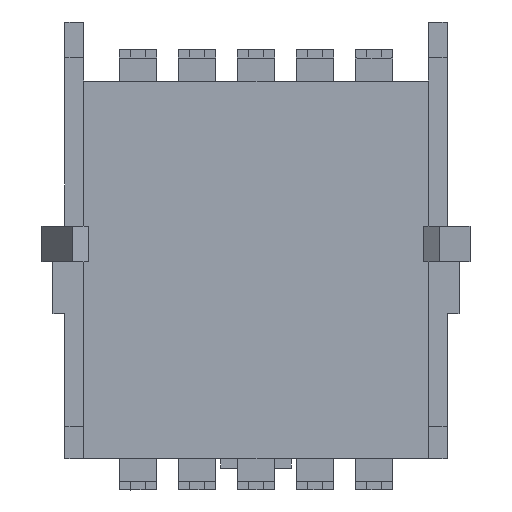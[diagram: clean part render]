
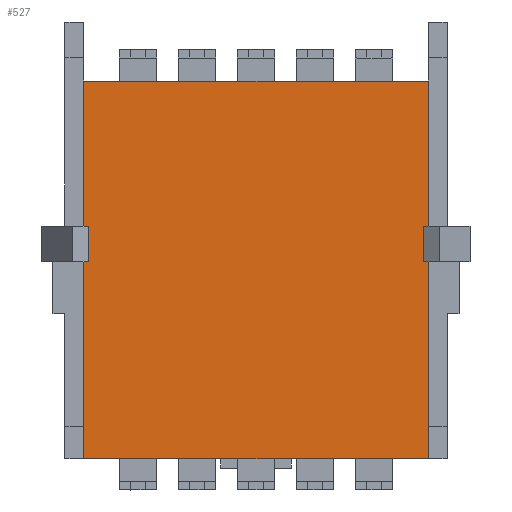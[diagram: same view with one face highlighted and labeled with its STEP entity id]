
A CAD part, front view. The second image highlights one B-rep face of the part: STEP entity #527.
In plain terms, the highlighted planar face has unit normal (0, -1, 0).
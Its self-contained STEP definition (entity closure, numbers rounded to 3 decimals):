
#527 = ADVANCED_FACE ( 'NONE', ( #4683 ), #5067, .T. ) ;
#651 = EDGE_LOOP ( 'NONE', ( #1846, #1847, #1848, #1849, #1850, #1851 ) ) ;
#697 = VERTEX_POINT ( 'NONE', #7301 ) ;
#1324 = EDGE_CURVE ( 'NONE', #2017, #697, #7819, .T. ) ;
#1326 = EDGE_CURVE ( 'NONE', #697, #2015, #7823, .T. ) ;
#1329 = EDGE_CURVE ( 'NONE', #2015, #2012, #7829, .T. ) ;
#1330 = EDGE_CURVE ( 'NONE', #2012, #2014, #7833, .T. ) ;
#1332 = EDGE_CURVE ( 'NONE', #2014, #2007, #7831, .T. ) ;
#1333 = EDGE_CURVE ( 'NONE', #2007, #2017, #7839, .T. ) ;
#1846 = ORIENTED_EDGE ( 'NONE', *, *, #1332, .T. ) ;
#1847 = ORIENTED_EDGE ( 'NONE', *, *, #1333, .T. ) ;
#1848 = ORIENTED_EDGE ( 'NONE', *, *, #1324, .T. ) ;
#1849 = ORIENTED_EDGE ( 'NONE', *, *, #1326, .T. ) ;
#1850 = ORIENTED_EDGE ( 'NONE', *, *, #1329, .T. ) ;
#1851 = ORIENTED_EDGE ( 'NONE', *, *, #1330, .T. ) ;
#2007 = VERTEX_POINT ( 'NONE', #8817 ) ;
#2012 = VERTEX_POINT ( 'NONE', #8831 ) ;
#2014 = VERTEX_POINT ( 'NONE', #8813 ) ;
#2015 = VERTEX_POINT ( 'NONE', #8836 ) ;
#2017 = VERTEX_POINT ( 'NONE', #8838 ) ;
#4683 = FACE_OUTER_BOUND ( 'NONE', #651, .T. ) ;
#5067 = PLANE ( 'NONE',  #5525 ) ;
#5086 = CARTESIAN_POINT ( 'NONE',  ( -7.3, 0., -8. ) ) ;
#5087 = DIRECTION ( 'NONE',  ( 0., -1., 0. ) ) ;
#5088 = DIRECTION ( 'NONE',  ( 0., 0., -1. ) ) ;
#5525 = AXIS2_PLACEMENT_3D ( 'NONE', #5086, #5087, #5088 ) ;
#7301 = CARTESIAN_POINT ( 'NONE',  ( -7.3, 0., -6.615 ) ) ;
#7548 = CARTESIAN_POINT ( 'NONE',  ( -7.3, 0., -8. ) ) ;
#7819 = LINE ( 'NONE', #7548, #7824 ) ;
#7823 = LINE ( 'NONE', #8508, #7828 ) ;
#7824 = VECTOR ( 'NONE', #8509, 1000. ) ;
#7828 = VECTOR ( 'NONE', #8513, 1000. ) ;
#7829 = LINE ( 'NONE', #8512, #7834 ) ;
#7831 = LINE ( 'NONE', #8515, #7840 ) ;
#7833 = LINE ( 'NONE', #8520, #7836 ) ;
#7834 = VECTOR ( 'NONE', #8519, 1000. ) ;
#7836 = VECTOR ( 'NONE', #8521, 1000. ) ;
#7839 = LINE ( 'NONE', #8525, #7842 ) ;
#7840 = VECTOR ( 'NONE', #8524, 1000. ) ;
#7842 = VECTOR ( 'NONE', #8526, 1000. ) ;
#8508 = CARTESIAN_POINT ( 'NONE',  ( -7.3, 0., -8. ) ) ;
#8509 = DIRECTION ( 'NONE',  ( 0., 0., -1. ) ) ;
#8512 = CARTESIAN_POINT ( 'NONE',  ( -7.3, 0., -8. ) ) ;
#8513 = DIRECTION ( 'NONE',  ( 0., 0., -1. ) ) ;
#8515 = CARTESIAN_POINT ( 'NONE',  ( 7.3, 0., -8. ) ) ;
#8519 = DIRECTION ( 'NONE',  ( 1., 0., 0. ) ) ;
#8520 = CARTESIAN_POINT ( 'NONE',  ( 7.3, 0., -8. ) ) ;
#8521 = DIRECTION ( 'NONE',  ( 0., 0., 1. ) ) ;
#8524 = DIRECTION ( 'NONE',  ( 0., 0., 1. ) ) ;
#8525 = CARTESIAN_POINT ( 'NONE',  ( -7.3, 0., 8. ) ) ;
#8526 = DIRECTION ( 'NONE',  ( -1., 0., 0. ) ) ;
#8813 = CARTESIAN_POINT ( 'NONE',  ( 7.3, 0., -6.615 ) ) ;
#8817 = CARTESIAN_POINT ( 'NONE',  ( 7.3, 0., 8. ) ) ;
#8831 = CARTESIAN_POINT ( 'NONE',  ( 7.3, 0., -8. ) ) ;
#8836 = CARTESIAN_POINT ( 'NONE',  ( -7.3, 0., -8. ) ) ;
#8838 = CARTESIAN_POINT ( 'NONE',  ( -7.3, 0., 8. ) ) ;
